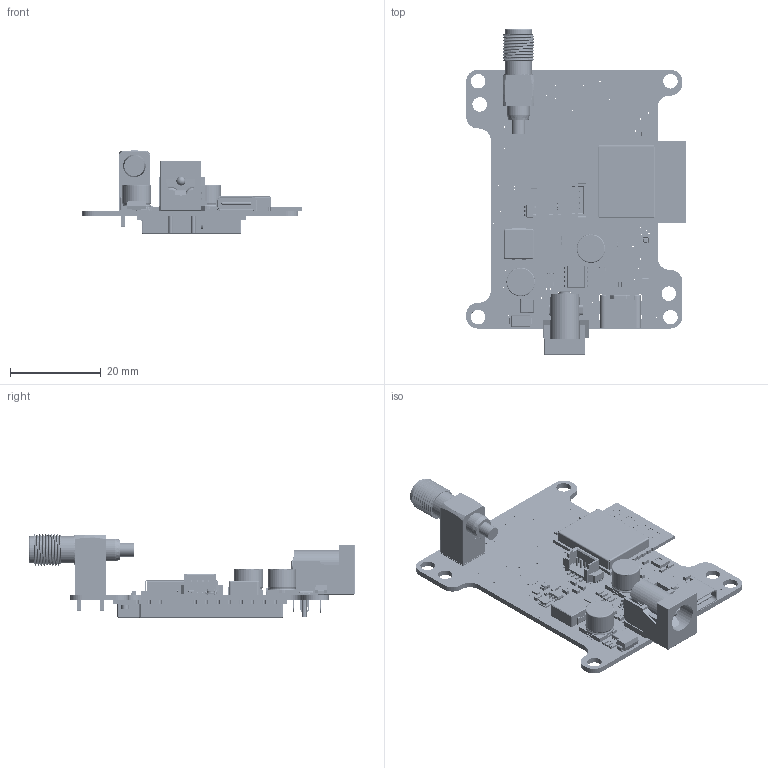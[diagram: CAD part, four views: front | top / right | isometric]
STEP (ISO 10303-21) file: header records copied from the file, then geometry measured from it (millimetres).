
FILE_DESCRIPTION(('Designed by EasyEDA Pro'),'2;1');
FILE_NAME('Open CASCADE Shape Model','2026-01-20T19:38:39',('Author'),( 'Open CASCADE'),'Open CASCADE STEP processor 7.8','Open CASCADE 7.8' ,'Unknown');
FILE_SCHEMA(('AUTOMOTIVE_DESIGN { 1 0 10303 214 1 1 1 1 }'));
Length unit declared in the file: millimetre
Products named in the file (78): EasyEDA PCB Model~laHg; Board~laHg; TopCopper~laHg; BottomCopper~laHg; TopFpcStiffener~laHg; BottomFpcStiffener~laHg; CAP-SMD_BD6.3-L6.6-W6.6-LS7.3-FD~CAP-SMD_BD6.3-L6.6-W6.6-LS7.3-FD~4p9D; C1~CAP-SMD_BD6.3-L6.6-W6.6-LS7.3-FD~CAP-SMD_BD6.3-L6.6-W6.6-LS7.3-FD~7JuK; C22~CAP-SMD_BD6.3-L6.6-W6.6-LS7.3-FD~CAP-SMD_BD6.3-L6.6-W6.6-LS7.3-FD~wgbw; SOD-523F_L1.2-W0.8-LS1.7-RD~SOD-523F_L1.2-W0.8-H0.6-LS1.6~pGuh; D1~SOD-523F_L1.2-W0.8-LS1.7-RD~SOD-523F_L1.2-W0.8-H0.6-LS1.6~fq6F; D2~SOD-523F_L1.2-W0.8-LS1.7-RD~SOD-523F_L1.2-W0.8-H0.6-LS1.6~bQf3; C0603~C0603_L1.6-W0.8-H0.8~e0Gd; C3~C0603~C0603_L1.6-W0.8-H0.8~fPCP; C4~C0603~C0603_L1.6-W0.8-H0.8~RtuR; C6~C0603~C0603_L1.6-W0.8-H0.8~46Ef; C9~C0603~C0603_L1.6-W0.8-H0.8~2Epj; C11~C0603~C0603_L1.6-W0.8-H0.8~QLYT; C16~C0603~C0603_L1.6-W0.8-H0.8~Z9qH; C19~C0603~C0603_L1.6-W0.8-H0.8~MQpS; C20~C0603~C0603_L1.6-W0.8-H0.8~VoJ2; C2~C0402~C0603_L1.6-W0.8-H0.8~3L6X; C5~C0402~C0603_L1.6-W0.8-H0.8~XkKj; C7~C0402~C0603_L1.6-W0.8-H0.8~U1ty; C8~C0402~C0603_L1.6-W0.8-H0.8~g5Gb; C18~C0402~C0603_L1.6-W0.8-H0.8~xTQ7; C21~C0402~C0603_L1.6-W0.8-H0.8~CF3D; C17~C0402~C0603_L1.6-W0.8-H0.8~jmK0; C10~C0402~C0603_L1.6-W0.8-H0.8~IAbf; C12~C0402~C0603_L1.6-W0.8-H0.8~8DlZ; C13~C0402~C0603_L1.6-W0.8-H0.8~LKg7; SMA_L4.3-W2.7-LS5.1-BI~SMA_L4.3-W2.7-LS5.1-BI~DXKV; D3~SMA_L4.3-W2.7-LS5.1-BI~SMA_L4.3-W2.7-LS5.1-BI~cOSN; WIRELM-SMD_E22-400M30S~WIRELM-SMD_L38.5-W24.0-H3.9-E22-400M30S~vnlJ; U5~WIRELM-SMD_E22-400M30S~WIRELM-SMD_L38.5-W24.0-H3.9-E22-400M30S~XmQT; IND-SMD_L7.1-W6.6~IND-SMD_L6.6-W7.1-H3.0~lWUr; L1~IND-SMD_L7.1-W6.6~IND-SMD_L6.6-W7.1-H3.0~ubHo; LED0805-R-RD~LED0805-RD~UAba; LED1~LED0805-R-RD~LED0805-RD~2Ocg; IND-SMD_L2.5-W2.0_FHD252012S-6R8MT~IND-SMD_L2.5-W2.0_FHD252012S-6R8MT~f4r5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
Assembly tree (107 placements, depth 3):
  EasyEDA PCB Model~laHg
    Board~laHg
    TopCopper~laHg
    BottomCopper~laHg
    TopFpcStiffener~laHg
    BottomFpcStiffener~laHg
    C1~CAP-SMD_BD6.3-L6.6-W6.6-LS7.3-FD~CAP-SMD_BD6.3-L6.6-W6.6-LS7.3-FD~7JuK
      CAP-SMD_BD6.3-L6.6-W6.6-LS7.3-FD~CAP-SMD_BD6.3-L6.6-W6.6-LS7.3-FD~4p9D
    C22~CAP-SMD_BD6.3-L6.6-W6.6-LS7.3-FD~CAP-SMD_BD6.3-L6.6-W6.6-LS7.3-FD~wgbw
      CAP-SMD_BD6.3-L6.6-W6.6-LS7.3-FD~CAP-SMD_BD6.3-L6.6-W6.6-LS7.3-FD~4p9D
    D1~SOD-523F_L1.2-W0.8-LS1.7-RD~SOD-523F_L1.2-W0.8-H0.6-LS1.6~fq6F
      SOD-523F_L1.2-W0.8-LS1.7-RD~SOD-523F_L1.2-W0.8-H0.6-LS1.6~pGuh
    D2~SOD-523F_L1.2-W0.8-LS1.7-RD~SOD-523F_L1.2-W0.8-H0.6-LS1.6~bQf3
      SOD-523F_L1.2-W0.8-LS1.7-RD~SOD-523F_L1.2-W0.8-H0.6-LS1.6~pGuh
    C3~C0603~C0603_L1.6-W0.8-H0.8~fPCP
      C0603~C0603_L1.6-W0.8-H0.8~e0Gd
    C4~C0603~C0603_L1.6-W0.8-H0.8~RtuR
      C0603~C0603_L1.6-W0.8-H0.8~e0Gd
    C6~C0603~C0603_L1.6-W0.8-H0.8~46Ef
      C0603~C0603_L1.6-W0.8-H0.8~e0Gd
    C9~C0603~C0603_L1.6-W0.8-H0.8~2Epj
      C0603~C0603_L1.6-W0.8-H0.8~e0Gd
    C11~C0603~C0603_L1.6-W0.8-H0.8~QLYT
      C0603~C0603_L1.6-W0.8-H0.8~e0Gd
    C16~C0603~C0603_L1.6-W0.8-H0.8~Z9qH
      C0603~C0603_L1.6-W0.8-H0.8~e0Gd
    C19~C0603~C0603_L1.6-W0.8-H0.8~MQpS
      C0603~C0603_L1.6-W0.8-H0.8~e0Gd
    C20~C0603~C0603_L1.6-W0.8-H0.8~VoJ2
      C0603~C0603_L1.6-W0.8-H0.8~e0Gd
    C2~C0402~C0603_L1.6-W0.8-H0.8~3L6X
      C0603~C0603_L1.6-W0.8-H0.8~e0Gd
    C5~C0402~C0603_L1.6-W0.8-H0.8~XkKj
      C0603~C0603_L1.6-W0.8-H0.8~e0Gd
    C7~C0402~C0603_L1.6-W0.8-H0.8~U1ty
      C0603~C0603_L1.6-W0.8-H0.8~e0Gd
    C8~C0402~C0603_L1.6-W0.8-H0.8~g5Gb
      C0603~C0603_L1.6-W0.8-H0.8~e0Gd
    C18~C0402~C0603_L1.6-W0.8-H0.8~xTQ7
      C0603~C0603_L1.6-W0.8-H0.8~e0Gd
    C21~C0402~C0603_L1.6-W0.8-H0.8~CF3D
      C0603~C0603_L1.6-W0.8-H0.8~e0Gd
    C17~C0402~C0603_L1.6-W0.8-H0.8~jmK0
      C0603~C0603_L1.6-W0.8-H0.8~e0Gd
    C10~C0402~C0603_L1.6-W0.8-H0.8~IAbf
      C0603~C0603_L1.6-W0.8-H0.8~e0Gd
    C12~C0402~C0603_L1.6-W0.8-H0.8~8DlZ
      C0603~C0603_L1.6-W0.8-H0.8~e0Gd
    C13~C0402~C0603_L1.6-W0.8-H0.8~LKg7
      C0603~C0603_L1.6-W0.8-H0.8~e0Gd
    D3~SMA_L4.3-W2.7-LS5.1-BI~SMA_L4.3-W2.7-LS5.1-BI~cOSN
      SMA_L4.3-W2.7-LS5.1-BI~SMA_L4.3-W2.7-LS5.1-BI~DXKV
    U5~WIRELM-SMD_E22-400M30S~WIRELM-SMD_L38.5-W24.0-H3.9-E22-400M30S~XmQT
      WIRELM-SMD_E22-400M30S~WIRELM-SMD_L38.5-W24.0-H3.9-E22-400M30S~vnlJ
    L1~IND-SMD_L7.1-W6.6~IND-SMD_L6.6-W7.1-H3.0~ubHo
      IND-SMD_L7.1-W6.6~IND-SMD_L6.6-W7.1-H3.0~lWUr
    LED1~LED0805-R-RD~LED0805-RD~2Ocg
      LED0805-R-RD~LED0805-RD~UAba
    L2~IND-SMD_L2.5-W2.0_FHD252012S-6R8MT~IND-SMD_L2.5-W2.0_FHD252012S-6R8MT~2qyk
      IND-SMD_L2.5-W2.0_FHD252012S-6R8MT~IND-SMD_L2.5-W2.0_FHD252012S-6R8MT~f4r5
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Bounding box: 48.49 x 71.78 x 18.52 mm (x, y, z)
Volume: 9104.4 mm3; surface area: 14163.8 mm2
Topology: 222 solids, 222 shells, 18365 faces, 49408 edges, 32425 vertices
Faces by surface type: plane 10701, bspline 5442, cylinder 1755, torus 241, sphere 208, cone 18
Entity records: 382374 total; most frequent: CARTESIAN_POINT 93228, ORIENTED_EDGE 45660, DIRECTION 33699, EDGE_CURVE 22830, LINE 15687, VECTOR 15687, VERTEX_POINT 14965, EDGE_LOOP 9381
